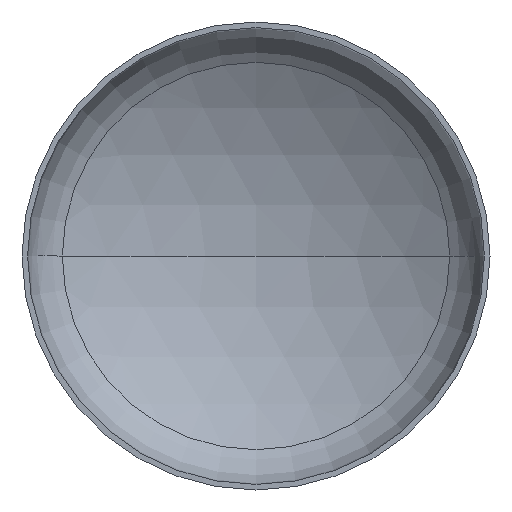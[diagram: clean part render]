
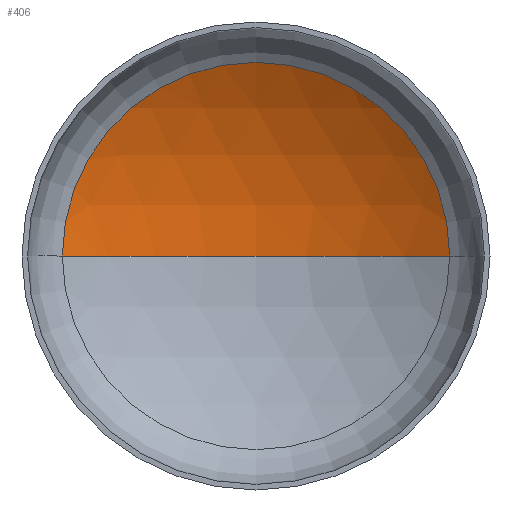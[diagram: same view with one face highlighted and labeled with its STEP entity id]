
A CAD part, front view. The second image highlights one B-rep face of the part: STEP entity #406.
In plain terms, the highlighted spherical face has radius 6400 mm.
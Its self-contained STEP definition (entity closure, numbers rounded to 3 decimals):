
#1 = DIRECTION ( 'NONE',  ( 1., 0., 0. ) ) ;
#3 = DIRECTION ( 'NONE',  ( 0., 0., 1. ) ) ;
#27 = DIRECTION ( 'NONE',  ( -1., 0., 0. ) ) ;
#45 = ORIENTED_EDGE ( 'NONE', *, *, #139, .T. ) ;
#56 = ORIENTED_EDGE ( 'NONE', *, *, #143, .T. ) ;
#62 = AXIS2_PLACEMENT_3D ( 'NONE', #350, #3, #1 ) ;
#64 = AXIS2_PLACEMENT_3D ( 'NONE', #398, #261, #258 ) ;
#67 = AXIS2_PLACEMENT_3D ( 'NONE', #197, #199, #179 ) ;
#90 = VERTEX_POINT ( 'NONE', #346 ) ;
#124 = VERTEX_POINT ( 'NONE', #300 ) ;
#128 = ORIENTED_EDGE ( 'NONE', *, *, #144, .F. ) ;
#139 = EDGE_CURVE ( 'NONE', #160, #90, #299, .T. ) ;
#140 = EDGE_LOOP ( 'NONE', ( #128, #56, #45 ) ) ;
#143 = EDGE_CURVE ( 'NONE', #124, #160, #237, .T. ) ;
#144 = EDGE_CURVE ( 'NONE', #124, #90, #363, .T. ) ;
#160 = VERTEX_POINT ( 'NONE', #372 ) ;
#179 = DIRECTION ( 'NONE',  ( 1., 0., 0. ) ) ;
#197 = CARTESIAN_POINT ( 'NONE',  ( 0., 1152.702, 0. ) ) ;
#199 = DIRECTION ( 'NONE',  ( 0., -1., 0. ) ) ;
#201 = FACE_OUTER_BOUND ( 'NONE', #140, .T. ) ;
#237 = CIRCLE ( 'NONE', #64, 6400. ) ;
#258 = DIRECTION ( 'NONE',  ( -1., 0., 0. ) ) ;
#261 = DIRECTION ( 'NONE',  ( 0., 0., -1. ) ) ;
#299 = CIRCLE ( 'NONE', #67, 3310.174 ) ;
#300 = CARTESIAN_POINT ( 'NONE',  ( 0., 2075.226, 0. ) ) ;
#346 = CARTESIAN_POINT ( 'NONE',  ( -3310.174, 1152.702, 0. ) ) ;
#350 = CARTESIAN_POINT ( 'NONE',  ( 0., -4324.774, 0. ) ) ;
#363 = CIRCLE ( 'NONE', #62, 6400. ) ;
#367 = SPHERICAL_SURFACE ( 'NONE', #387, 6400. ) ;
#372 = CARTESIAN_POINT ( 'NONE',  ( 3310.174, 1152.702, 0. ) ) ;
#384 = DIRECTION ( 'NONE',  ( 0., 0., -1. ) ) ;
#387 = AXIS2_PLACEMENT_3D ( 'NONE', #401, #384, #27 ) ;
#398 = CARTESIAN_POINT ( 'NONE',  ( 0., -4324.774, 0. ) ) ;
#401 = CARTESIAN_POINT ( 'NONE',  ( 0., -4324.774, 0. ) ) ;
#406 = ADVANCED_FACE ( 'NONE', ( #201 ), #367, .F. ) ;
